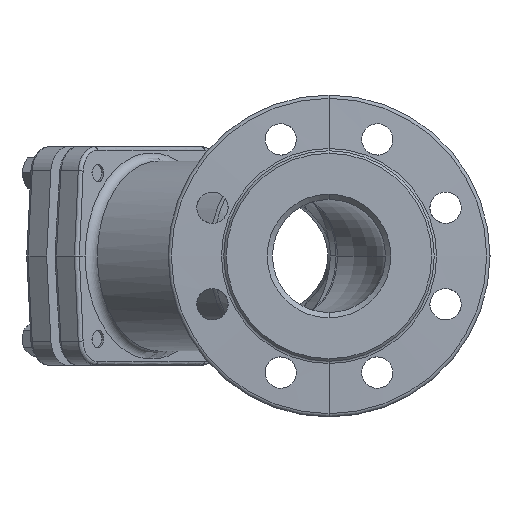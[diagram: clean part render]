
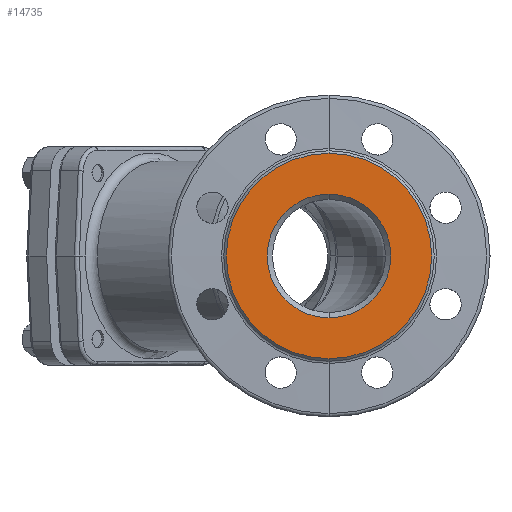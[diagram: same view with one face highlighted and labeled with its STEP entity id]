
A CAD part, left-side view. The second image highlights one B-rep face of the part: STEP entity #14735.
In plain terms, the highlighted planar face has unit normal (-1, 0, 0).
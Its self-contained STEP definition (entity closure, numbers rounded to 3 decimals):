
#1700 = ORIENTED_EDGE ( 'NONE', *, *, #33591, .T. ) ;
#1701 = ORIENTED_EDGE ( 'NONE', *, *, #33852, .T. ) ;
#1702 = ORIENTED_EDGE ( 'NONE', *, *, #33855, .T. ) ;
#1703 = ORIENTED_EDGE ( 'NONE', *, *, #33693, .T. ) ;
#3015 = FACE_OUTER_BOUND ( 'NONE', #17225, .T. ) ;
#3017 = FACE_BOUND ( 'NONE', #17222, .T. ) ;
#6168 = CARTESIAN_POINT ( 'NONE',  ( 0., 0., -59. ) ) ;
#6169 = CARTESIAN_POINT ( 'NONE',  ( 0., 0., 59. ) ) ;
#6225 = CARTESIAN_POINT ( 'NONE',  ( 0., 0., -35.5 ) ) ;
#6232 = CARTESIAN_POINT ( 'NONE',  ( 0., 0., 35.5 ) ) ;
#9158 = CARTESIAN_POINT ( 'NONE',  ( 0., 0., 0. ) ) ;
#9406 = PLANE ( 'NONE',  #29129 ) ;
#9408 = DIRECTION ( 'NONE',  ( -1., 0., 0. ) ) ;
#9409 = DIRECTION ( 'NONE',  ( 0., 0., 1. ) ) ;
#13418 = CARTESIAN_POINT ( 'NONE',  ( 0., 0., 0. ) ) ;
#13430 = DIRECTION ( 'NONE',  ( 1., 0., 0. ) ) ;
#13431 = DIRECTION ( 'NONE',  ( 0., 0., 1. ) ) ;
#14154 = CARTESIAN_POINT ( 'NONE',  ( 0., 0., 0. ) ) ;
#14201 = DIRECTION ( 'NONE',  ( -1., 0., 0. ) ) ;
#14202 = DIRECTION ( 'NONE',  ( 0., 0., 1. ) ) ;
#14735 = ADVANCED_FACE ( 'NONE', ( #3017, #3015 ), #9406, .T. ) ;
#16558 = CIRCLE ( 'NONE', #29790, 35.5 ) ;
#16561 = CIRCLE ( 'NONE', #29796, 59. ) ;
#17222 = EDGE_LOOP ( 'NONE', ( #1700, #1701 ) ) ;
#17225 = EDGE_LOOP ( 'NONE', ( #1702, #1703 ) ) ;
#18230 = CARTESIAN_POINT ( 'NONE',  ( 0., 0., 0. ) ) ;
#18238 = DIRECTION ( 'NONE',  ( 1., 0., 0. ) ) ;
#18239 = DIRECTION ( 'NONE',  ( 0., 0., 1. ) ) ;
#18240 = CARTESIAN_POINT ( 'NONE',  ( 0., 0., 0. ) ) ;
#18247 = DIRECTION ( 'NONE',  ( -1., 0., 0. ) ) ;
#18248 = DIRECTION ( 'NONE',  ( 0., 0., 1. ) ) ;
#22845 = CIRCLE ( 'NONE', #29698, 35.5 ) ;
#22965 = CIRCLE ( 'NONE', #29740, 59. ) ;
#24745 = VERTEX_POINT ( 'NONE', #6168 ) ;
#24747 = VERTEX_POINT ( 'NONE', #6169 ) ;
#24859 = VERTEX_POINT ( 'NONE', #6225 ) ;
#24873 = VERTEX_POINT ( 'NONE', #6232 ) ;
#29129 = AXIS2_PLACEMENT_3D ( 'NONE', #9158, #9408, #9409 ) ;
#29698 = AXIS2_PLACEMENT_3D ( 'NONE', #13418, #13430, #13431 ) ;
#29740 = AXIS2_PLACEMENT_3D ( 'NONE', #14154, #14201, #14202 ) ;
#29790 = AXIS2_PLACEMENT_3D ( 'NONE', #18230, #18238, #18239 ) ;
#29796 = AXIS2_PLACEMENT_3D ( 'NONE', #18240, #18247, #18248 ) ;
#33591 = EDGE_CURVE ( 'NONE', #24873, #24859, #22845, .T. ) ;
#33693 = EDGE_CURVE ( 'NONE', #24747, #24745, #22965, .T. ) ;
#33852 = EDGE_CURVE ( 'NONE', #24859, #24873, #16558, .T. ) ;
#33855 = EDGE_CURVE ( 'NONE', #24745, #24747, #16561, .T. ) ;
